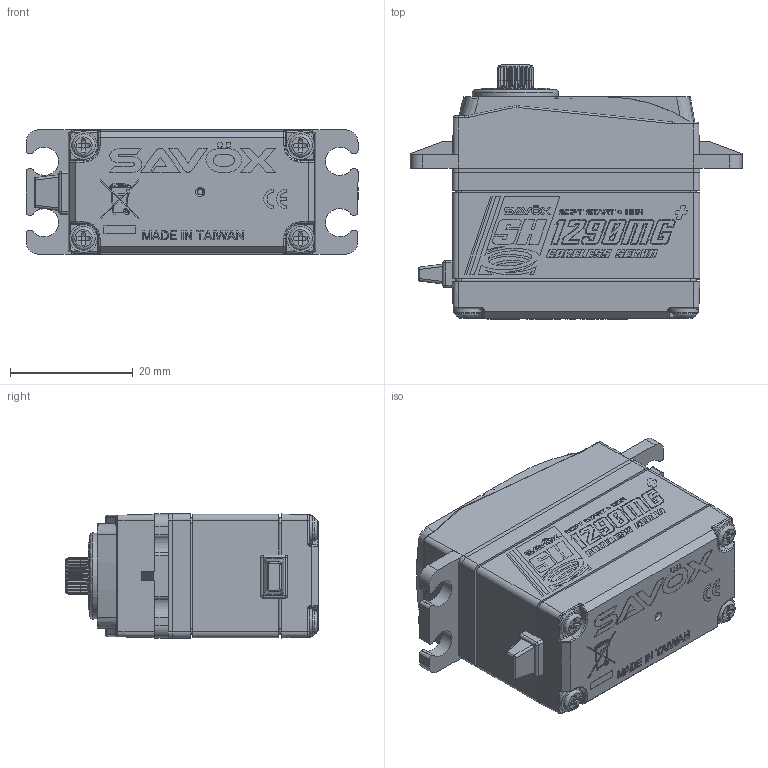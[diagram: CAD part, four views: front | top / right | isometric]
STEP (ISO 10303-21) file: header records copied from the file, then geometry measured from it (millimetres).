
FILE_DESCRIPTION (( 'STEP AP214' ), '1' );
FILE_NAME ('SH-1290MG+_3D??+??.STEP', '2025-04-16T09:12:47', ( '' ), ( '' ), 'SwSTEP 2.0', 'SolidWorks 2024', '' );
FILE_SCHEMA (( 'AUTOMOTIVE_DESIGN' ));
Length unit declared in the file: millimetre
Products named in the file (1): SH-1290MG+_3D零件+齒輪
Bounding box: 54 x 41.3 x 20.2 mm (x, y, z)
Volume: 29074.1 mm3; surface area: 7053.3 mm2
Topology: 1 solids, 9 shells, 1228 faces, 5583 edges, 4560 vertices
Faces by surface type: plane 674, cylinder 295, bspline 171, cone 88
Full cylindrical faces by diameter (mm): 0.307 x1, 0.547 x1, 2.5 x1, 3.8 x4, 4.5 x4, 6.1 x1, 8.4 x1, 11 x1, 14 x1
Entity records: 77114 total; most frequent: CARTESIAN_POINT 20116, ORIENTED_EDGE 11084, DIRECTION 6654, EDGE_CURVE 5542, VERTEX_POINT 4549, LINE 3178, VECTOR 3178, AXIS2_PLACEMENT_3D 1738
